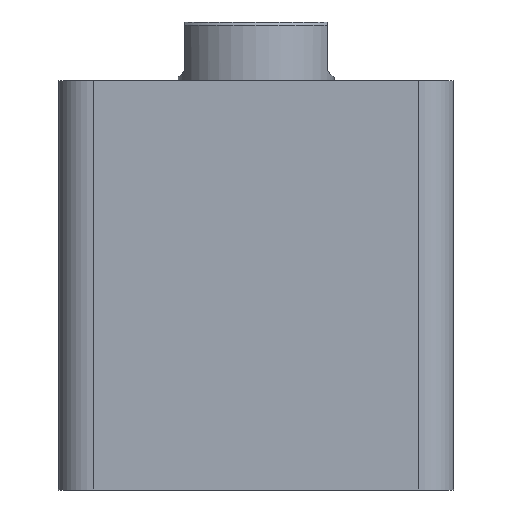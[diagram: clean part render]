
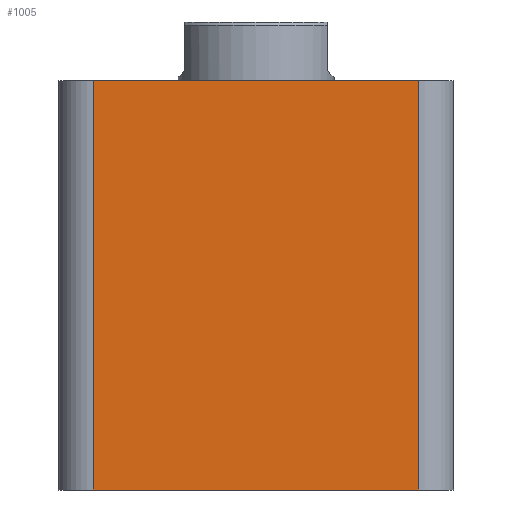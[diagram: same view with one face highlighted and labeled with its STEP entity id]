
A CAD part, front view. The second image highlights one B-rep face of the part: STEP entity #1005.
In plain terms, the highlighted planar face has unit normal (0, -1, 0).
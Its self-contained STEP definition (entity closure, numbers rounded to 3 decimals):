
#88 = ORIENTED_EDGE ( 'NONE', *, *, #1084, .T. ) ;
#89 = ORIENTED_EDGE ( 'NONE', *, *, #1085, .T. ) ;
#90 = ORIENTED_EDGE ( 'NONE', *, *, #1086, .F. ) ;
#91 = ORIENTED_EDGE ( 'NONE', *, *, #1087, .T. ) ;
#388 = CARTESIAN_POINT ( 'NONE',  ( 47., -57., 0. ) ) ;
#390 = CARTESIAN_POINT ( 'NONE',  ( -47., -57., 118. ) ) ;
#391 = CARTESIAN_POINT ( 'NONE',  ( 47., -57., 118. ) ) ;
#609 = VERTEX_POINT ( 'NONE', #391 ) ;
#610 = VERTEX_POINT ( 'NONE', #390 ) ;
#612 = VERTEX_POINT ( 'NONE', #388 ) ;
#882 = CARTESIAN_POINT ( 'NONE',  ( -47., -57., 0. ) ) ;
#1005 = ADVANCED_FACE ( 'NONE', ( #1189 ), #1752, .F. ) ;
#1084 = EDGE_CURVE ( 'NONE', #2429, #612, #2031, .T. ) ;
#1085 = EDGE_CURVE ( 'NONE', #612, #609, #2029, .T. ) ;
#1086 = EDGE_CURVE ( 'NONE', #610, #609, #2035, .T. ) ;
#1087 = EDGE_CURVE ( 'NONE', #610, #2429, #2037, .T. ) ;
#1189 = FACE_OUTER_BOUND ( 'NONE', #2442, .T. ) ;
#1564 = AXIS2_PLACEMENT_3D ( 'NONE', #1750, #1754, #1755 ) ;
#1750 = CARTESIAN_POINT ( 'NONE',  ( -57., -57., 118. ) ) ;
#1752 = PLANE ( 'NONE',  #1564 ) ;
#1754 = DIRECTION ( 'NONE',  ( 0., 1., 0. ) ) ;
#1755 = DIRECTION ( 'NONE',  ( 0., 0., 1. ) ) ;
#2029 = LINE ( 'NONE', #2209, #2036 ) ;
#2031 = LINE ( 'NONE', #2214, #2034 ) ;
#2034 = VECTOR ( 'NONE', #2215, 1000. ) ;
#2035 = LINE ( 'NONE', #2217, #2038 ) ;
#2036 = VECTOR ( 'NONE', #2216, 1000. ) ;
#2037 = LINE ( 'NONE', #2219, #2040 ) ;
#2038 = VECTOR ( 'NONE', #2218, 1000. ) ;
#2040 = VECTOR ( 'NONE', #2220, 1000. ) ;
#2209 = CARTESIAN_POINT ( 'NONE',  ( 47., -57., 118. ) ) ;
#2214 = CARTESIAN_POINT ( 'NONE',  ( -57., -57., 0. ) ) ;
#2215 = DIRECTION ( 'NONE',  ( 1., 0., 0. ) ) ;
#2216 = DIRECTION ( 'NONE',  ( 0., 0., 1. ) ) ;
#2217 = CARTESIAN_POINT ( 'NONE',  ( -57., -57., 118. ) ) ;
#2218 = DIRECTION ( 'NONE',  ( 1., 0., 0. ) ) ;
#2219 = CARTESIAN_POINT ( 'NONE',  ( -47., -57., 118. ) ) ;
#2220 = DIRECTION ( 'NONE',  ( 0., 0., -1. ) ) ;
#2429 = VERTEX_POINT ( 'NONE', #882 ) ;
#2442 = EDGE_LOOP ( 'NONE', ( #88, #89, #90, #91 ) ) ;
